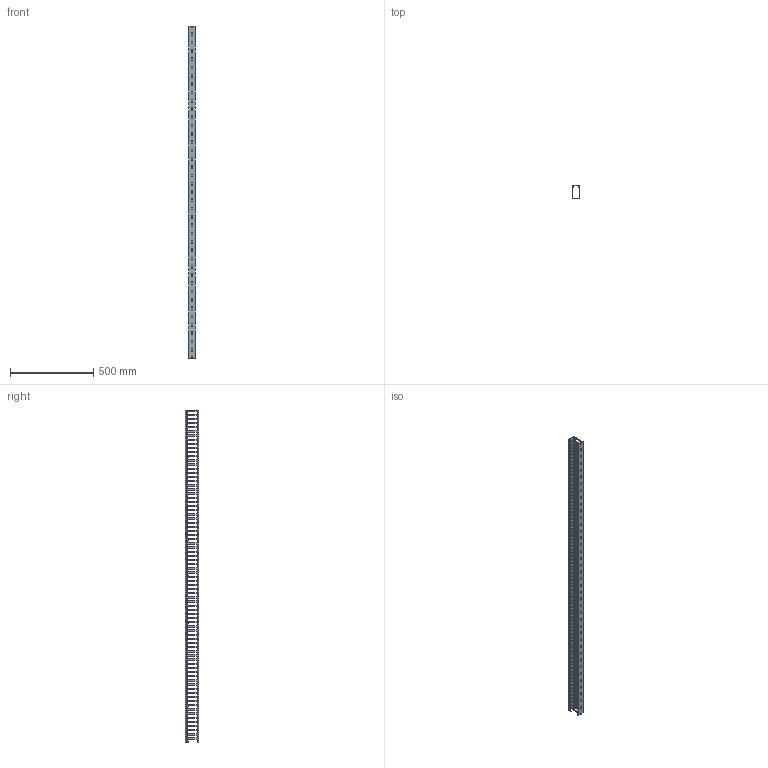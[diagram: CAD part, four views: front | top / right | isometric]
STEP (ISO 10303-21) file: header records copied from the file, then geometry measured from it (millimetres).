
FILE_DESCRIPTION (( 'STEP AP214' ), '1' );
FILE_NAME ('KD-48-20-LL.STEP', '2020-02-19T00:25:43', ( '' ), ( '' ), 'SwSTEP 2.0', 'SolidWorks 2018', '' );
FILE_SCHEMA (( 'AUTOMOTIVE_DESIGN' ));
Length unit declared in the file: millimetre
Products named in the file (3): KD-48-20-LL; KD-44-20-cover; KD-48-20-LL-body
Assembly tree (2 placements, depth 2):
  KD-48-20-LL
    KD-48-20-LL-body
    KD-44-20-cover
Bounding box: 40 x 80.17 x 2000 mm (x, y, z)
Volume: 626656.3 mm3; surface area: 811055.5 mm2
Topology: 2 solids, 2 shells, 1547 faces, 4629 edges, 3086 vertices
Faces by surface type: cylinder 797, plane 750
Entity records: 53455 total; most frequent: DIRECTION 9327, CARTESIAN_POINT 9267, ORIENTED_EDGE 9258, EDGE_CURVE 4629, AXIS2_PLACEMENT_3D 3146, VERTEX_POINT 3086, VECTOR 3035, LINE 3035
